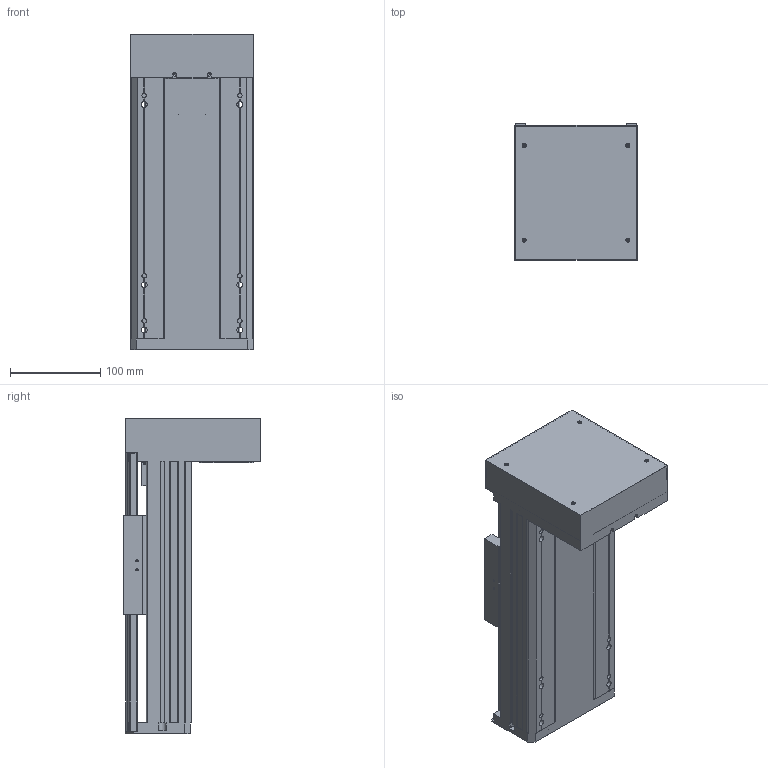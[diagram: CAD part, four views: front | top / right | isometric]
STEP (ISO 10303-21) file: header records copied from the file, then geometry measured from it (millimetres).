
FILE_DESCRIPTION(/* description */ (''),/* implementation_level */ '2;1');
FILE_NAME(/* name */ 'TKA136-FD-100_asm1.stp',/* time_stamp */ '2016-05-07T09:08:12+08:00',/* author */ (''),/* organization */ (''),/* preprocessor_version */ 'ST-DEVELOPER v15',/* originating_system */ 'SIEMENS PLM Software NX 8.5',/* authorisation */ '');
FILE_SCHEMA (('AUTOMOTIVE_DESIGN { 1 0 10303 214 3 1 1 1 }'));
Length unit declared in the file: millimetre
Products named in the file (3): 100-02; 100-01; TKA136-FD-100_asm1
Assembly tree (2 placements, depth 2):
  TKA136-FD-100_asm1
    100-01
    100-02
Bounding box: 136 x 152 x 350 mm (x, y, z)
Volume: 1431957.5 mm3; surface area: 553788.7 mm2
Topology: 2 solids, 13 shells, 896 faces, 2445 edges, 1573 vertices
Faces by surface type: plane 418, cylinder 413, cone 65
Full cylindrical faces by diameter (mm): 3 x2, 3.3 x13, 4 x4, 4.2 x8, 4.5 x14, 5 x6, 5.5 x26, 6.6 x10, 8 x12, 10 x9, 10.5 x6, 11 x4, 11.6 x1, 12 x9, 15 x3, 16 x5, 17 x1, 24 x5, 26 x1, 28 x1, 46 x1, 50 x2
Entity records: 29466 total; most frequent: CARTESIAN_POINT 7406, DIRECTION 4660, ORIENTED_EDGE 4310, EDGE_CURVE 2155, AXIS2_PLACEMENT_3D 1759, VERTEX_POINT 1496, EDGE_LOOP 1256, LINE 1142
